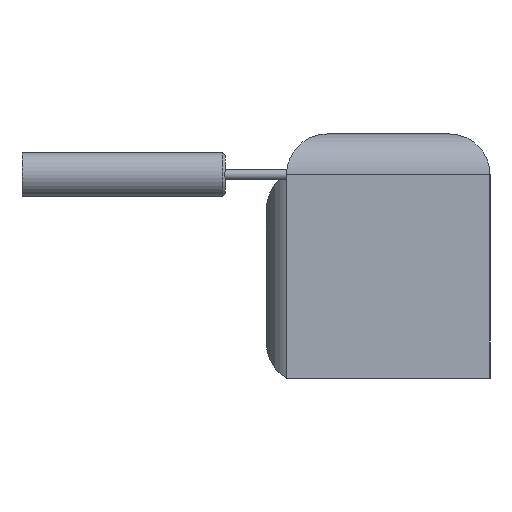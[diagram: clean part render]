
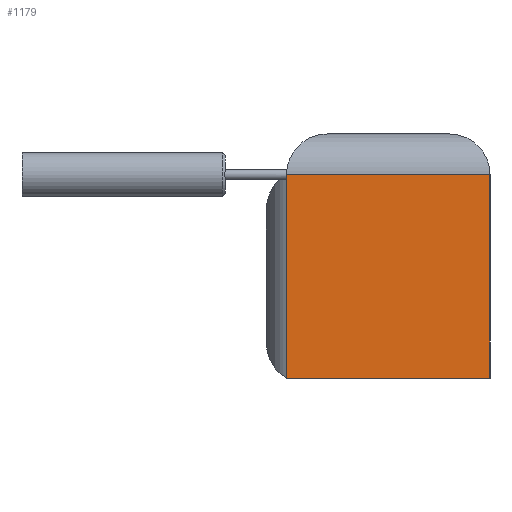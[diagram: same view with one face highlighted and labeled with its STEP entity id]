
A CAD part, left-side view. The second image highlights one B-rep face of the part: STEP entity #1179.
In plain terms, the highlighted planar face has unit normal (-1, 0, 0).
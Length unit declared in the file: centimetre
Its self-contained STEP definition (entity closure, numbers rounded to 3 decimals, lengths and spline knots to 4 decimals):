
#669=PLANE('',#1237);
#716=VERTEX_POINT('',#1542);
#719=VERTEX_POINT('',#1547);
#722=VERTEX_POINT('',#1557);
#723=VERTEX_POINT('',#1559);
#763=VECTOR('',#1370,1.);
#768=VECTOR('',#1377,1.);
#770=VECTOR('',#1380,1.);
#771=VECTOR('',#1381,1.);
#802=LINE('',#1548,#763);
#807=LINE('',#1558,#768);
#809=LINE('',#1562,#770);
#810=LINE('',#1563,#771);
#859=EDGE_CURVE('',#719,#716,#802,.T.);
#864=EDGE_CURVE('',#723,#722,#807,.T.);
#866=EDGE_CURVE('',#722,#716,#809,.T.);
#867=EDGE_CURVE('',#723,#719,#810,.T.);
#979=ORIENTED_EDGE('',*,*,#866,.T.);
#980=ORIENTED_EDGE('',*,*,#859,.F.);
#981=ORIENTED_EDGE('',*,*,#867,.F.);
#982=ORIENTED_EDGE('',*,*,#864,.T.);
#1082=EDGE_LOOP('',(#979,#980,#981,#982));
#1135=FACE_BOUND('',#1082,.T.);
#1179=ADVANCED_FACE('',(#1135),#669,.T.);
#1237=AXIS2_PLACEMENT_3D('',#1561,#1379,$);
#1370=DIRECTION('',(0.,0.,1.));
#1377=DIRECTION('',(0.,0.,1.));
#1379=DIRECTION('',(-1.,0.,0.));
#1380=DIRECTION('',(0.,1.,0.));
#1381=DIRECTION('',(0.,1.,0.));
#1542=CARTESIAN_POINT('',(0.,1.,0.5));
#1547=CARTESIAN_POINT('',(0.,1.,-0.5));
#1548=CARTESIAN_POINT('',(0.,1.,-0.5));
#1557=CARTESIAN_POINT('',(0.,0.,0.5));
#1558=CARTESIAN_POINT('',(0.,0.,-0.5));
#1559=CARTESIAN_POINT('',(0.,0.,-0.5));
#1561=CARTESIAN_POINT('',(0.,0.5,-0.5));
#1562=CARTESIAN_POINT('',(0.,0.,0.5));
#1563=CARTESIAN_POINT('',(0.,0.,-0.5));
